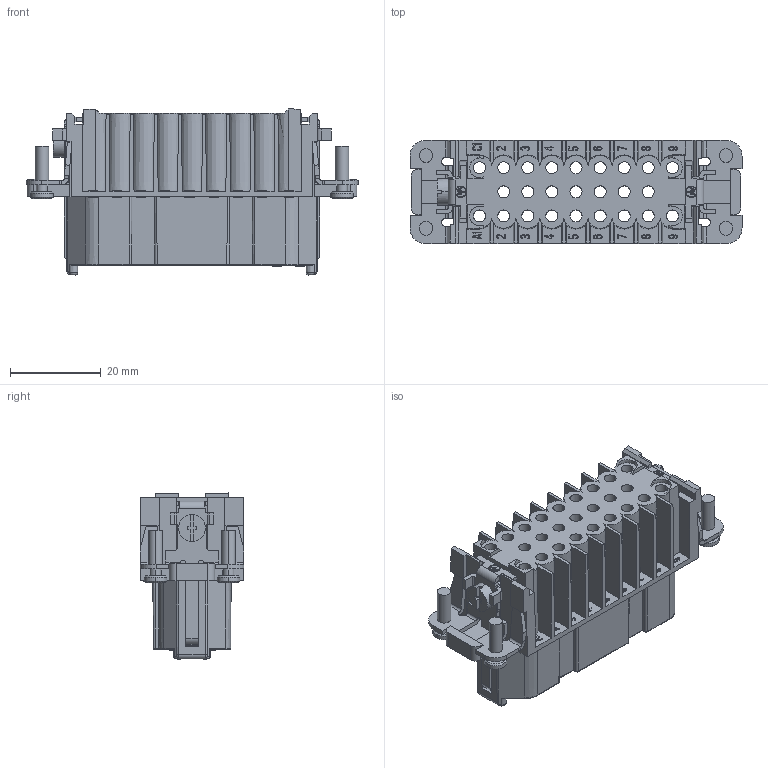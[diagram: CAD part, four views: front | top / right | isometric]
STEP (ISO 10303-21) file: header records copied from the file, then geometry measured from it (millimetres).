
FILE_DESCRIPTION (( 'STEP AP203' ), '1' );
FILE_NAME ('HD-025-F.STEP', '2022-05-07T03:20:17', ( '' ), ( '' ), 'SwSTEP 2.0', 'SolidWorks 2016', '' );
FILE_SCHEMA (( 'CONFIG_CONTROL_DESIGN' ));
Products named in the file (1): HD-025-F
Bounding box: 73 x 22.82 x 36.5 mm (x, y, z)
Volume: 24417.7 mm3; surface area: 22145 mm2
Topology: 1 solids, 1 shells, 2521 faces, 7095 edges, 4681 vertices
Faces by surface type: plane 2119, cylinder 230, cone 120, bspline 52
Entity records: 82704 total; most frequent: CARTESIAN_POINT 17458, ORIENTED_EDGE 14190, DIRECTION 12441, EDGE_CURVE 7095, LINE 6081, VECTOR 6081, VERTEX_POINT 4681, AXIS2_PLACEMENT_3D 3180
